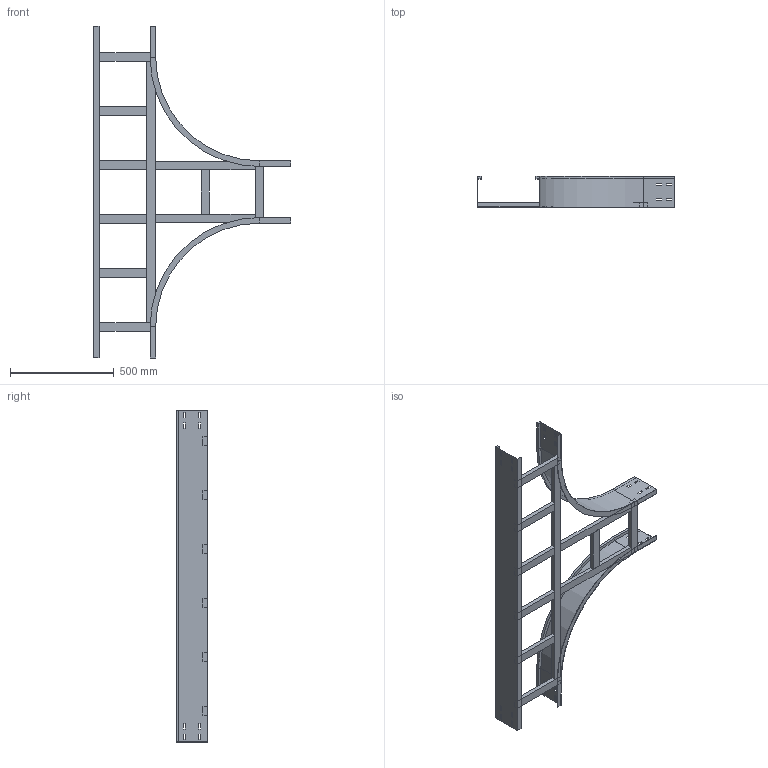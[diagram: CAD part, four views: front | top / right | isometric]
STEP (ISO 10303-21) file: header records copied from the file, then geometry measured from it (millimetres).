
FILE_DESCRIPTION (( 'STEP AP214' ), '1' );
FILE_NAME ('15J5F300.step', '2025-02-21T16:27:50', ( '' ), ( '' ), 'SwSTEP 2.0', 'SolidWorks 2023', '' );
FILE_SCHEMA (( 'AUTOMOTIVE_DESIGN' ));
Length unit declared in the file: millimetre
Products named in the file (8): LONGH.RETT_H150_R500+300; TRAVERSINO_LONG._R500+300; TRAVERSINO_INTERMEDIO_R500+300; TRAVERSINO_VERT_R500; TRAVERSINO_300; 15J5F300; LONGH.INTERNO 90°_H150_R500; TRAVERSINO_COPPIA_300
Assembly tree (14 placements, depth 2):
  15J5F300
    LONGH.INTERNO 90°_H150_R500  x2
    LONGH.RETT_H150_R500+300
    TRAVERSINO_300  x3
    TRAVERSINO_LONG._R500+300
    TRAVERSINO_INTERMEDIO_R500+300  x4
    TRAVERSINO_VERT_R500  x2
    TRAVERSINO_COPPIA_300
Bounding box: 950 x 150 x 1600 mm (x, y, z)
Volume: 5564103.6 mm3; surface area: 2000169.7 mm2
Topology: 14 solids, 14 shells, 224 faces, 556 edges, 360 vertices
Faces by surface type: plane 216, cylinder 8
Entity records: 4209 total; most frequent: CARTESIAN_POINT 695, ORIENTED_EDGE 664, DIRECTION 634, EDGE_CURVE 332, LINE 324, VECTOR 324, VERTEX_POINT 216, EDGE_LOOP 162
